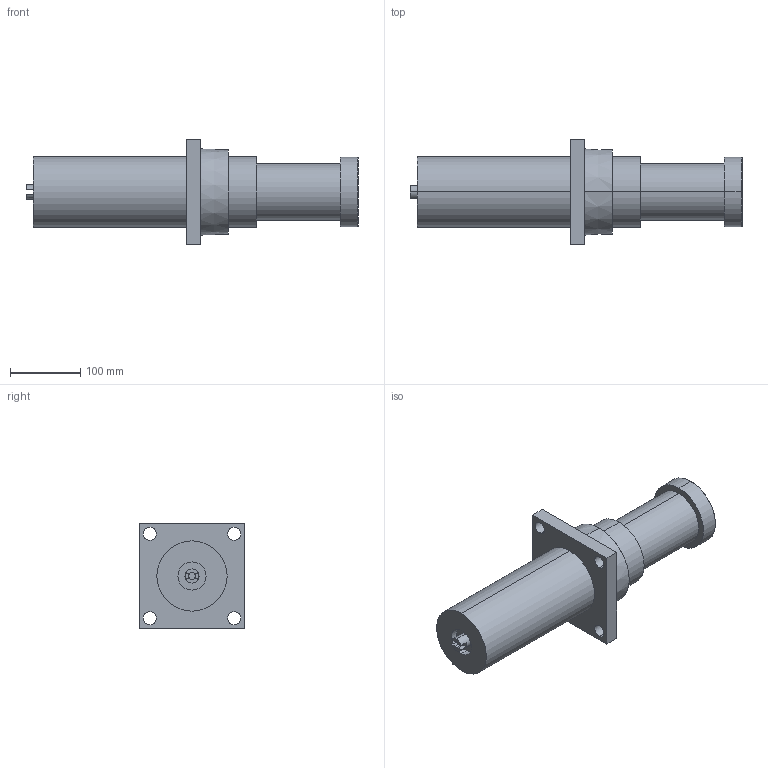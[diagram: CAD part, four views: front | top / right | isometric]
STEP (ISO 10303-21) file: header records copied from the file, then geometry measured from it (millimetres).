
FILE_DESCRIPTION (( 'STEP AP214' ), '1' );
FILE_NAME ('LDH100X100FF.STEP', '2019-01-21T04:55:33', ( 'user' ), ( 'Microsoft' ), 'SwSTEP 2.0', 'SolidWorks 2016', '' );
FILE_SCHEMA (( 'AUTOMOTIVE_DESIGN' ));
Length unit declared in the file: millimetre
Products named in the file (1): LDH100X100FF
Bounding box: 473 x 150 x 150 mm (x, y, z)
Volume: 3704339.6 mm3; surface area: 201921.9 mm2
Topology: 1 solids, 5 shells, 65 faces, 140 edges, 92 vertices
Faces by surface type: cylinder 30, plane 29, cone 6
Entity records: 1840 total; most frequent: DIRECTION 348, CARTESIAN_POINT 298, ORIENTED_EDGE 280, AXIS2_PLACEMENT_3D 142, EDGE_CURVE 140, VERTEX_POINT 92, EDGE_LOOP 80, CIRCLE 76
